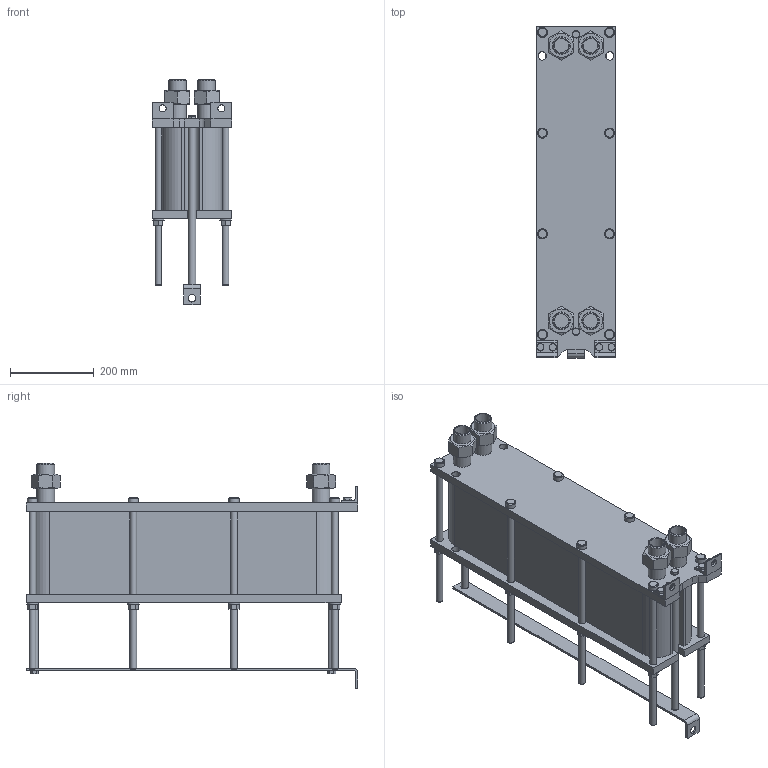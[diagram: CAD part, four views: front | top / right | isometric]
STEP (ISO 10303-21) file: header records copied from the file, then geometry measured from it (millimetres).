
FILE_DESCRIPTION(/* description */ (''),/* implementation_level */ '2;1');
FILE_NAME(/* name */ 'C:\Users\zhuro\Desktop\ENCO\TO\ЭН-008\ЭН-0,5-008-64-1.stp',/* time_stamp */ '2022-06-06T10:50:50+03:00',/* author */ ('zhuro'),/* organization */ (''),/* preprocessor_version */ 'ST-DEVELOPER v18.1',/* originating_system */ 'Autodesk Inventor 2022',/* authorisation */ '');
FILE_SCHEMA (('AUTOMOTIVE_DESIGN { 1 0 10303 214 3 1 1 }'));
Length unit declared in the file: millimetre
Products named in the file (1): ЭН-0,5-008-64-1
Bounding box: 190 x 790 x 536.2 mm (x, y, z)
Volume: 27043350.4 mm3; surface area: 1717006.9 mm2
Topology: 40 solids, 40 shells, 428 faces, 924 edges, 606 vertices
Faces by surface type: plane 273, cylinder 109, cone 40, torus 6
Full cylindrical faces by diameter (mm): 12 x6, 14 x2, 16 x20, 17 x8, 18 x19, 20 x5, 24 x8, 28 x8, 34.3 x8, 42.3 x8
Entity records: 15843 total; most frequent: CARTESIAN_POINT 5991, DIRECTION 1984, ORIENTED_EDGE 1848, EDGE_CURVE 924, AXIS2_PLACEMENT_3D 715, VERTEX_POINT 606, LINE 554, VECTOR 554
